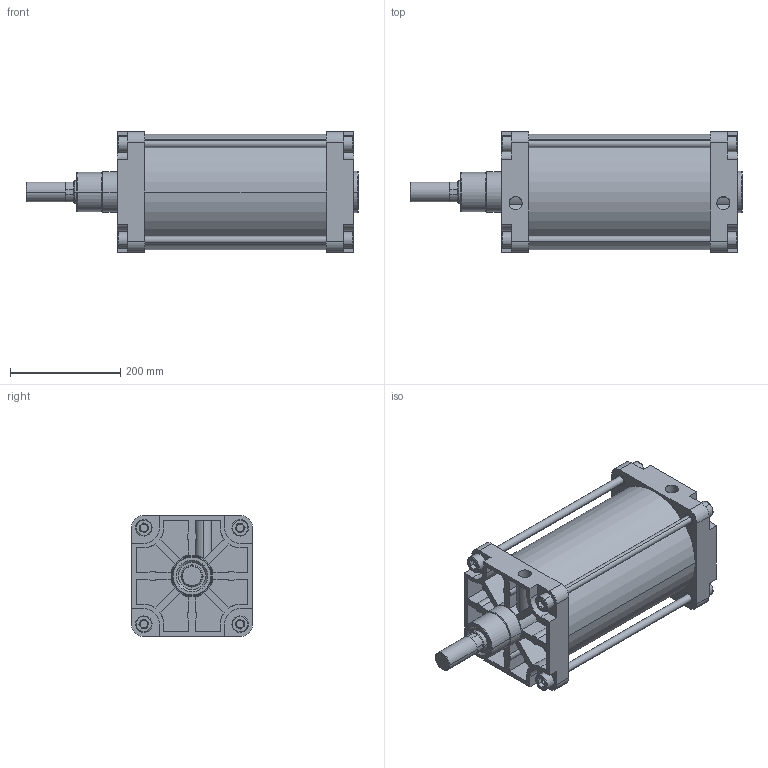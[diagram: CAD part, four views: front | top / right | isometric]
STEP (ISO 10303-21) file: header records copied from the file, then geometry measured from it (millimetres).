
FILE_DESCRIPTION(('CATIA V5 STEP Exchange'),'2;1');
FILE_NAME('D:\stp file for catalog\PNC\200\PNC 200-40-250-00.stp','2015-09-13T12:32:17+00:00',('none'),('none'),'Version 5-6 Release 2012','CATIA V5 STEP AP203','none');
FILE_SCHEMA(('CONFIG_CONTROL_DESIGN'));
Length unit declared in the file: millimetre
Products named in the file (1): PNC 200-40-250-00
Assembly tree (2 placements, depth 2):
  PNC 200-40-250-00
    #58
    #15053
Bounding box: 603 x 219 x 219 mm (x, y, z)
Volume: 7172416.4 mm3; surface area: 1175842 mm2
Topology: 6 solids, 8 shells, 579 faces, 1424 edges, 938 vertices
Faces by surface type: plane 345, cylinder 184, torus 28, extrusion 16, cone 6
Entity records: 15943 total; most frequent: CARTESIAN_POINT 3401, ORIENTED_EDGE 2848, DIRECTION 1932, EDGE_CURVE 1424, VERTEX_POINT 938, VECTOR 924, LINE 908, AXIS2_PLACEMENT_3D 712
